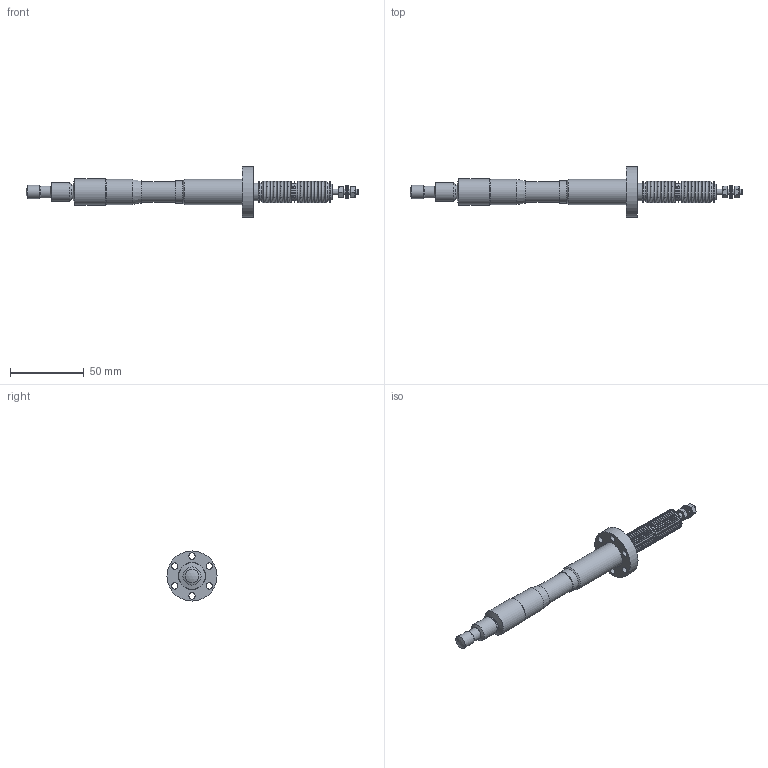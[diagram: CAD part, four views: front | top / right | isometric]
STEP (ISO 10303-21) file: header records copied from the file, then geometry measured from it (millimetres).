
FILE_DESCRIPTION((''),'2;1');
FILE_NAME('W:\214-334\M214-334.stp','2013-04-04T16:22:07',('KAA'),(''),'Autodesk Inventor 2012','Autodesk Inventor 2012','');
FILE_SCHEMA(('AUTOMOTIVE_DESIGN { 1 0 10303 214 1 1 1 1 }'));
Length unit declared in the file: millimetre
Products named in the file (1): M214-334
Bounding box: 225.3 x 34 x 34 mm (x, y, z)
Volume: 35280.5 mm3; surface area: 31926.9 mm2
Topology: 1 solids, 5 shells, 480 faces, 963 edges, 522 vertices
Faces by surface type: cone 202, torus 181, plane 50, cylinder 46, sphere 1
Full cylindrical faces by diameter (mm): 4 x7, 4.3 x6, 7 x1, 8 x2, 9 x3, 9.6 x1, 10 x1, 12 x8, 12.16 x4, 12.4 x1, 14 x1, 14.2 x3, 15 x1, 17 x2, 18 x1, 18.6 x1, 21.3 x1, 21.4 x1, 34 x1
Entity records: 10422 total; most frequent: DIRECTION 1916, CARTESIAN_POINT 1603, ORIENTED_EDGE 1062, AXIS2_PLACEMENT_3D 952, EDGE_LOOP 934, EDGE_CURVE 531, VERTEX_POINT 495, STYLED_ITEM 481
